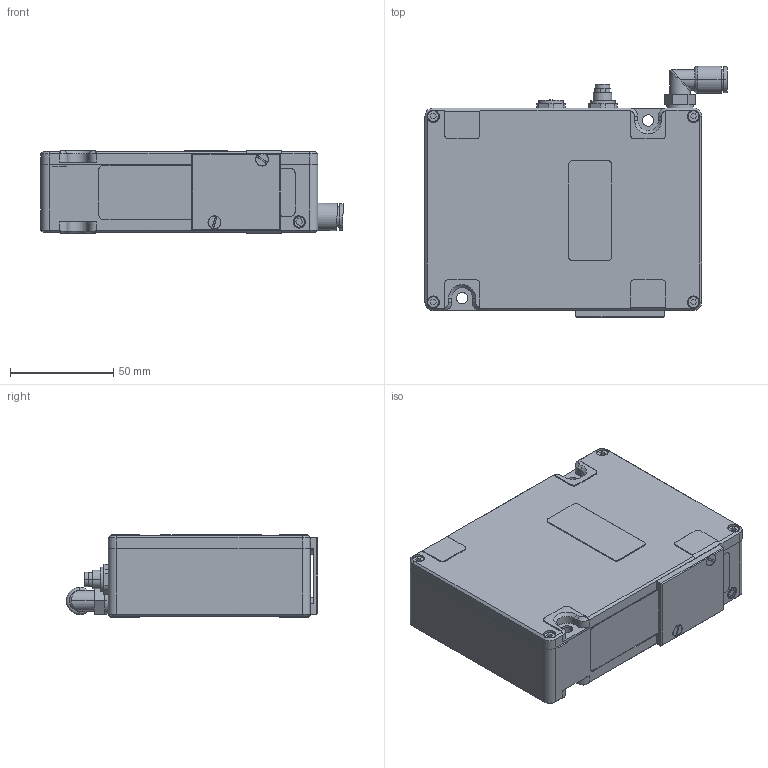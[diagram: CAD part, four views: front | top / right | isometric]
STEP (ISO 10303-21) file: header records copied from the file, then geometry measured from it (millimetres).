
FILE_DESCRIPTION (( 'STEP AP203' ), '1' );
FILE_NAME ('STANDARD LINE.STEP', '2014-04-24T12:36:24', ( 'Serg' ), ( '' ), 'SwSTEP 2.0', 'SolidWorks 2012', '' );
FILE_SCHEMA (( 'CONFIG_CONTROL_DESIGN' ));
Length unit declared in the file: millimetre
Products named in the file (22): STANDARD LINE; Âèíò_Ì3x10 â ïîòàé; 妈眚_󉞄_鲨腠漯; Âèíò_Ì3õ10; Ãàéêà Raz_09_0427_80_08; Raz_09_0427_80_08; Âèíò_Ì2õ4; Âèíò_Ì3x8 â ïîòàé; ÐÔ 049.04.n_Ñòåêëî 49õ26; RF049.028_Ñòåêëî 23õ8; 妈眚 篑蜞眍忸黜 DIN 916 M6; ÐÔ 049.04.n_Ñîïëî; ﾋ珸褞 ﾑﾁ; RF603.00.148_扻豵鵨 錟谾譇; RF603.00.111_Êîðïóñ îáúåêòèâà ëàçåðà; ADL-66Z01HU; 扻錪犩; 吾牝桠-2; Raz_09_0412_80_04; FESTO QSL_F_G1''8_8; 性 049.04.n_署赅; ﾐﾔ 049.04.n_ﾎ魵瑙韃
Assembly tree (33 placements, depth 3):
  STANDARD LINE
    ﾐﾔ 049.04.n_ﾎ魵瑙韃
    性 049.04.n_署赅
    FESTO QSL_F_G1''8_8
    Raz_09_0412_80_04
    吾牝桠-2
    扻錪犩
    ﾋ珸褞 ﾑﾁ
      ADL-66Z01HU
      RF603.00.111_Êîðïóñ îáúåêòèâà ëàçåðà
      RF603.00.148_扻豵鵨 錟谾譇
    ÐÔ 049.04.n_Ñîïëî
    妈眚 篑蜞眍忸黜 DIN 916 M6  x4
    RF049.028_Ñòåêëî 23õ8
    ÐÔ 049.04.n_Ñòåêëî 49õ26
    Âèíò_Ì3x8 â ïîòàé  x2
    Âèíò_Ì2õ4  x3
    Raz_09_0427_80_08
    Ãàéêà Raz_09_0427_80_08  x2
    Âèíò_Ì3õ10  x4
    妈眚_󉞄_鲨腠漯
    Âèíò_Ì3x10 â ïîòàé  x3
Bounding box: 146.23 x 121.8 x 40 mm (x, y, z)
Volume: 152722.5 mm3; surface area: 114539.7 mm2
Topology: 36 solids, 36 shells, 1369 faces, 3331 edges, 2112 vertices
Faces by surface type: plane 622, cylinder 503, cone 210, torus 32, bspline 2
Entity records: 37140 total; most frequent: CARTESIAN_POINT 6595, DIRECTION 6162, ORIENTED_EDGE 5592, EDGE_CURVE 2796, AXIS2_PLACEMENT_3D 2300, VERTEX_POINT 1785, LINE 1562, VECTOR 1562
